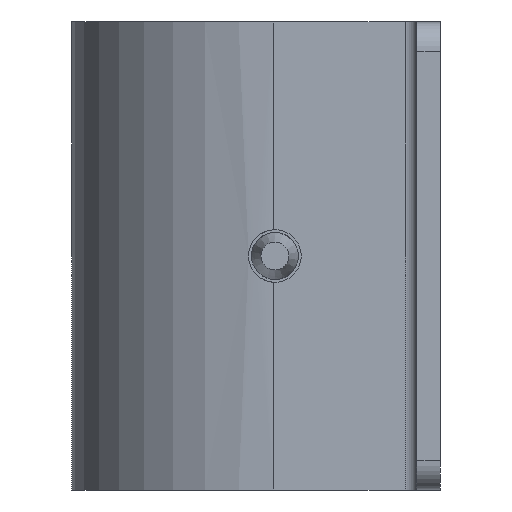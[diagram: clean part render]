
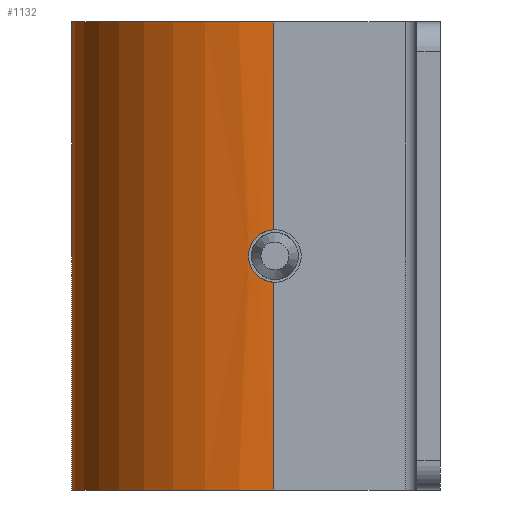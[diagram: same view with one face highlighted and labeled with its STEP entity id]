
A CAD part, left-side view. The second image highlights one B-rep face of the part: STEP entity #1132.
In plain terms, the highlighted cylindrical face has radius 17.25 mm (diameter 34.5 mm), a partial arc.
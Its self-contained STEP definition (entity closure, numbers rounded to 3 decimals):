
#20=B_SPLINE_CURVE_WITH_KNOTS('',3,(#1868,#1869,#1870,#1871,#1872,#1873,
#1874),.UNSPECIFIED.,.F.,.F.,(4,1,1,1,4),(0.,0.002,
0.003,0.005,0.007),
 .UNSPECIFIED.);
#21=B_SPLINE_CURVE_WITH_KNOTS('',3,(#1883,#1884,#1885,#1886,#1887,#1888,
#1889),.UNSPECIFIED.,.F.,.F.,(4,1,1,1,4),(0.,0.002,0.003,
0.005,0.007),.UNSPECIFIED.);
#50=CYLINDRICAL_SURFACE('',#1260,17.25);
#114=LINE('',#1877,#210);
#115=LINE('',#1881,#211);
#116=LINE('',#1891,#212);
#117=LINE('',#1895,#213);
#210=VECTOR('',#1518,1000.);
#211=VECTOR('',#1521,1000.);
#212=VECTOR('',#1522,1000.);
#213=VECTOR('',#1525,1000.);
#440=ORIENTED_EDGE('',*,*,#681,.F.);
#441=ORIENTED_EDGE('',*,*,#682,.T.);
#442=ORIENTED_EDGE('',*,*,#683,.T.);
#443=ORIENTED_EDGE('',*,*,#684,.F.);
#444=ORIENTED_EDGE('',*,*,#685,.F.);
#445=ORIENTED_EDGE('',*,*,#686,.F.);
#446=ORIENTED_EDGE('',*,*,#687,.F.);
#447=ORIENTED_EDGE('',*,*,#688,.T.);
#681=EDGE_CURVE('',#816,#817,#20,.T.);
#682=EDGE_CURVE('',#816,#818,#114,.T.);
#683=EDGE_CURVE('',#818,#819,#903,.T.);
#684=EDGE_CURVE('',#820,#819,#115,.T.);
#685=EDGE_CURVE('',#821,#820,#21,.T.);
#686=EDGE_CURVE('',#822,#821,#116,.T.);
#687=EDGE_CURVE('',#823,#822,#904,.T.);
#688=EDGE_CURVE('',#823,#817,#117,.T.);
#816=VERTEX_POINT('',#1875);
#817=VERTEX_POINT('',#1876);
#818=VERTEX_POINT('',#1878);
#819=VERTEX_POINT('',#1880);
#820=VERTEX_POINT('',#1882);
#821=VERTEX_POINT('',#1890);
#822=VERTEX_POINT('',#1892);
#823=VERTEX_POINT('',#1894);
#903=CIRCLE('',#1261,17.25);
#904=CIRCLE('',#1262,17.25);
#964=EDGE_LOOP('',(#440,#441,#442,#443,#444,#445,#446,#447));
#1036=FACE_BOUND('',#964,.T.);
#1132=ADVANCED_FACE('',(#1036),#50,.T.);
#1260=AXIS2_PLACEMENT_3D('',#1867,#1516,#1517);
#1261=AXIS2_PLACEMENT_3D('',#1879,#1519,#1520);
#1262=AXIS2_PLACEMENT_3D('',#1893,#1523,#1524);
#1516=DIRECTION('',(0.,0.,-1.));
#1517=DIRECTION('',(-1.,0.,0.));
#1518=DIRECTION('',(0.,0.,-1.));
#1519=DIRECTION('',(0.,0.,1.));
#1520=DIRECTION('',(1.,0.,0.));
#1521=DIRECTION('',(0.,0.,-1.));
#1522=DIRECTION('',(0.,0.,-1.));
#1523=DIRECTION('',(0.,0.,1.));
#1524=DIRECTION('',(1.,0.,0.));
#1525=DIRECTION('',(0.,0.,-1.));
#1867=CARTESIAN_POINT('',(70.45,14.25,20.));
#1868=CARTESIAN_POINT('',(87.7,14.25,-2.247));
#1869=CARTESIAN_POINT('',(87.7,14.826,-2.219));
#1870=CARTESIAN_POINT('',(87.632,15.932,-1.708));
#1871=CARTESIAN_POINT('',(87.534,16.619,0.));
#1872=CARTESIAN_POINT('',(87.633,15.931,1.709));
#1873=CARTESIAN_POINT('',(87.7,14.826,2.219));
#1874=CARTESIAN_POINT('',(87.7,14.25,2.247));
#1875=CARTESIAN_POINT('',(87.7,14.25,-2.247));
#1876=CARTESIAN_POINT('',(87.7,14.25,2.247));
#1877=CARTESIAN_POINT('',(87.7,14.25,20.));
#1878=CARTESIAN_POINT('',(87.7,14.25,-20.));
#1879=CARTESIAN_POINT('',(70.45,14.25,-20.));
#1880=CARTESIAN_POINT('',(53.2,14.25,-20.));
#1881=CARTESIAN_POINT('',(53.2,14.25,20.));
#1882=CARTESIAN_POINT('',(53.2,14.25,-2.247));
#1883=CARTESIAN_POINT('',(53.2,14.25,2.247));
#1884=CARTESIAN_POINT('',(53.2,14.826,2.219));
#1885=CARTESIAN_POINT('',(53.268,15.932,1.708));
#1886=CARTESIAN_POINT('',(53.366,16.619,0.));
#1887=CARTESIAN_POINT('',(53.267,15.931,-1.709));
#1888=CARTESIAN_POINT('',(53.2,14.826,-2.219));
#1889=CARTESIAN_POINT('',(53.2,14.25,-2.247));
#1890=CARTESIAN_POINT('',(53.2,14.25,2.247));
#1891=CARTESIAN_POINT('',(53.2,14.25,20.));
#1892=CARTESIAN_POINT('',(53.2,14.25,20.));
#1893=CARTESIAN_POINT('',(70.45,14.25,20.));
#1894=CARTESIAN_POINT('',(87.7,14.25,20.));
#1895=CARTESIAN_POINT('',(87.7,14.25,20.));
